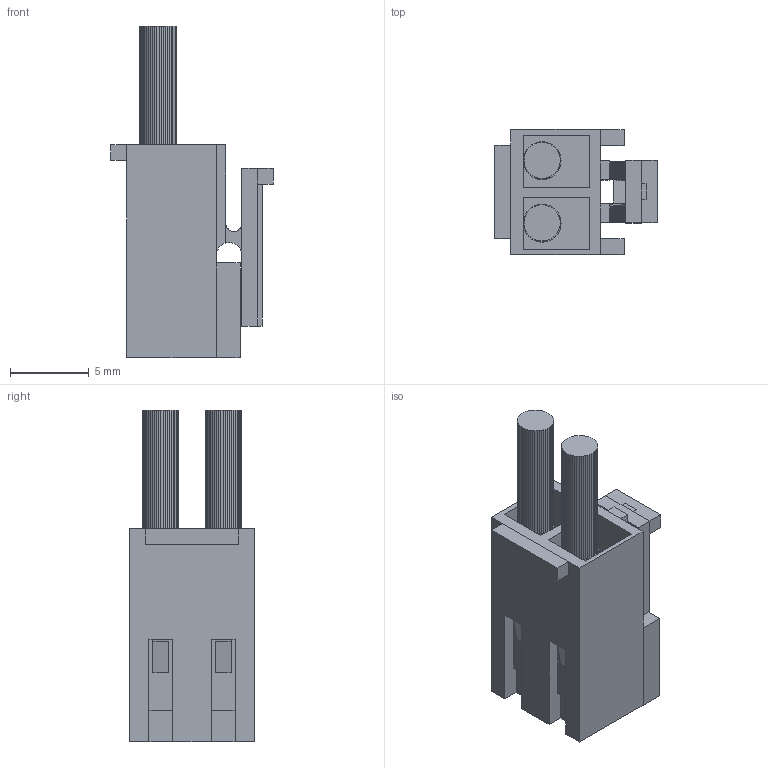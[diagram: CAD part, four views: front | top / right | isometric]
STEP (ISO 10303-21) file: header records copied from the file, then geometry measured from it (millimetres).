
FILE_DESCRIPTION(('FreeCAD Model'),'2;1');
FILE_NAME('Open CASCADE Shape Model','2021-06-28T18:05:32',('Author'),( ''),'Open CASCADE STEP processor 7.5','FreeCAD','Unknown');
FILE_SCHEMA(('AUTOMOTIVE_DESIGN { 1 0 10303 214 1 1 1 1 }'));
Length unit declared in the file: millimetre
Products named in the file (1): Group002
Bounding box: 10.3 x 7.92 x 21 mm (x, y, z)
Volume: 613.9 mm3; surface area: 1436.3 mm2
Topology: 1 solids, 1 shells, 418 faces, 1201 edges, 790 vertices
Faces by surface type: plane 418
Entity records: 31394 total; most frequent: CARTESIAN_POINT 5344, DIRECTION 3909, LINE 3071, VECTOR 3071, ORIENTED_EDGE 2402, PCURVE 2402, DEFINITIONAL_REPRESENTATION 2402, EDGE_CURVE 1201
